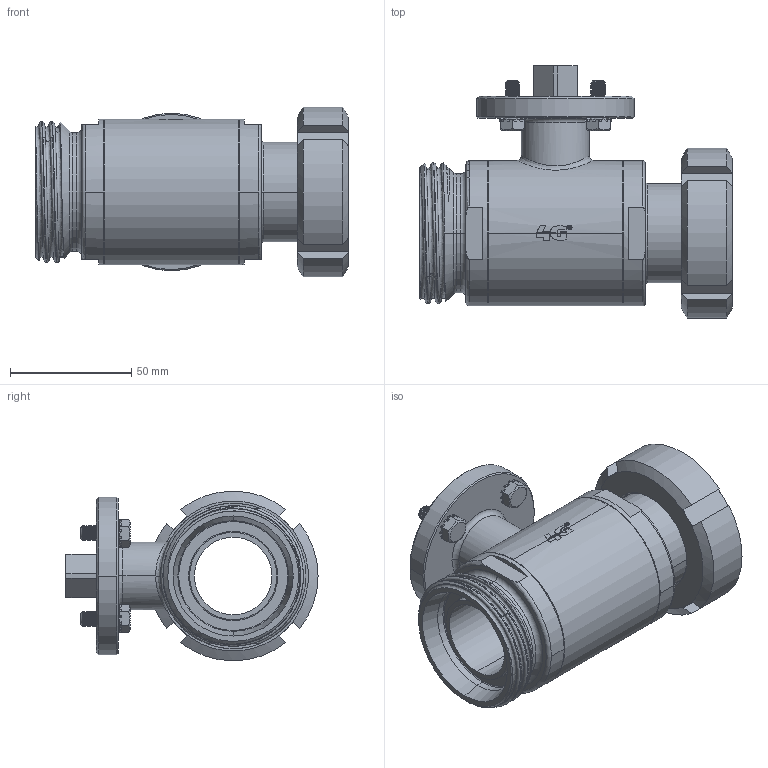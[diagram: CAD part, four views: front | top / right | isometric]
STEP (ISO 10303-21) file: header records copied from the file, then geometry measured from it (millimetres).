
FILE_DESCRIPTION((''),'2;1');
FILE_NAME('PARTE_VUOTA','2022-01-26T15:16:08',('alfio.taboni'),('CDM Tecnoconsulting'),'CREO PARAMETRIC BY PTC INC, 2020053','CREO PARAMETRIC BY PTC INC, 2020053','');
FILE_SCHEMA(('CONFIG_CONTROL_DESIGN','SHAPE_APPEARANCE_LAYERS_GROUPS'));
Products named in the file (1): PARTE_VUOTA
Bounding box: 129 x 104 x 70 mm (x, y, z)
Volume: 238234.7 mm3; surface area: 99264.9 mm2
Topology: 1 solids, 9 shells, 1453 faces, 4077 edges, 2573 vertices
Faces by surface type: plane 480, cylinder 467, cone 195, bspline 161, torus 90, extrusion 56, sphere 4
Entity records: 103261 total; most frequent: CARTESIAN_POINT 56119, ORIENTED_EDGE 8142, DIRECTION 6003, PRESENTATION_STYLE_ASSIGNMENT 4086, STYLED_ITEM 4072, CURVE_STYLE 4071, EDGE_CURVE 4071, VERTEX_POINT 2573
